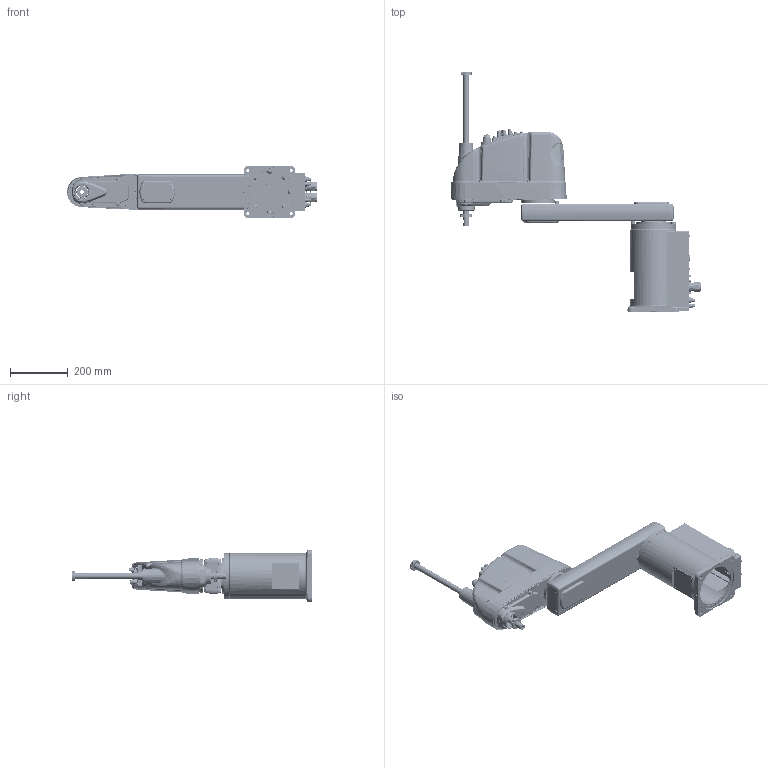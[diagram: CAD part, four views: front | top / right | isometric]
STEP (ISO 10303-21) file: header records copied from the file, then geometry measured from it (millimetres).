
FILE_DESCRIPTION (( 'STEP AP203' ), '1' );
FILE_NAME ('C_GS653S_ASM.STEP', '2008-12-18T20:49:30', ( 'Adrian' ), ( '' ), 'SwSTEP 2.0', 'SolidWorks 2008', '' );
FILE_SCHEMA (( 'CONFIG_CONTROL_DESIGN' ));
Length unit declared in the file: millimetre
Products named in the file (5): ZS_3; GSBODY; GSARM1_65; GSBASE1; C_GS653S_ASM
Assembly tree (4 placements, depth 2):
  C_GS653S_ASM
    GSBODY
    GSARM1_65
    ZS_3
    GSBASE1
Bounding box: 867.46 x 835 x 180 mm (x, y, z)
Volume: 5262652.1 mm3; surface area: 1675662.2 mm2
Topology: 5 solids, 5 shells, 6994 faces, 19354 edges, 12925 vertices
Faces by surface type: plane 4409, cylinder 1403, bspline 666, cone 472, torus 44
Entity records: 337114 total; most frequent: CARTESIAN_POINT 174763, ORIENTED_EDGE 38530, DIRECTION 25343, EDGE_CURVE 19265, VERTEX_POINT 12925, VECTOR 10535, LINE 10535, EDGE_LOOP 7814
